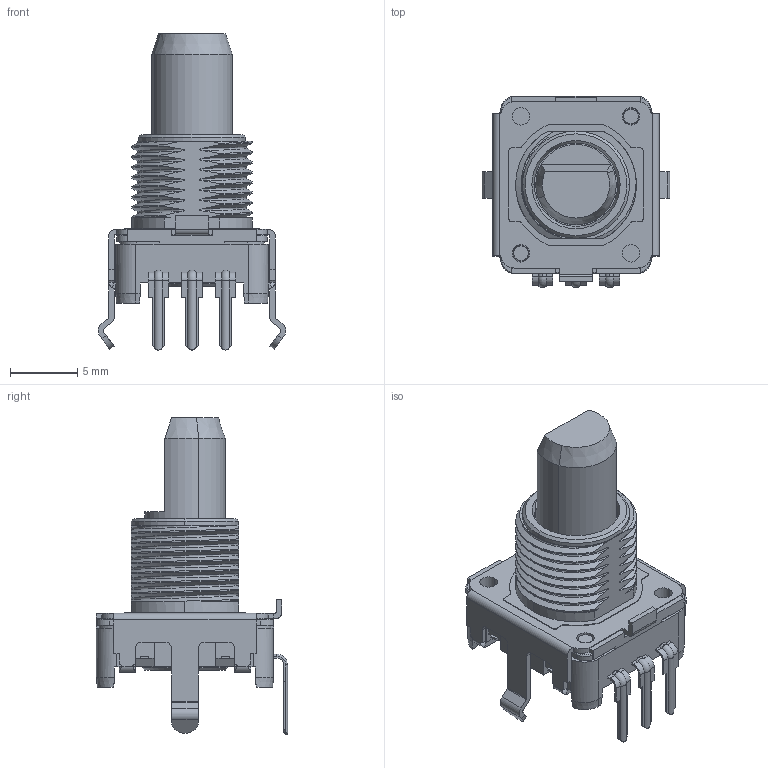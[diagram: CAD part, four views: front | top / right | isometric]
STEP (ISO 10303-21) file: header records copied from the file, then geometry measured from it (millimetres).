
FILE_DESCRIPTION (( 'STEP AP214' ), '1' );
FILE_NAME ('EC12E-bushing-20.STEP', '2012-02-20T05:46:26', ( '' ), ( '' ), 'SwSTEP 2.0', 'SolidWorks 2010', '' );
FILE_SCHEMA (( 'AUTOMOTIVE_DESIGN' ));
Length unit declared in the file: millimetre
Products named in the file (1): EC12E-bushing-20
Bounding box: 14 x 14.25 x 23.55 mm (x, y, z)
Volume: 1051.8 mm3; surface area: 1397.7 mm2
Topology: 1 solids, 3 shells, 590 faces, 1581 edges, 1008 vertices
Faces by surface type: plane 323, cylinder 171, bspline 58, cone 23, torus 15
Entity records: 43054 total; most frequent: CARTESIAN_POINT 22294, ORIENTED_EDGE 3162, DIRECTION 2755, EDGE_CURVE 1581, LINE 1013, VECTOR 1013, VERTEX_POINT 1008, AXIS2_PLACEMENT_3D 871
